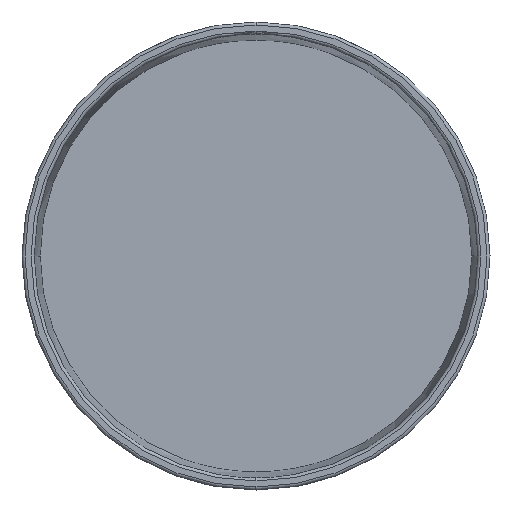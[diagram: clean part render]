
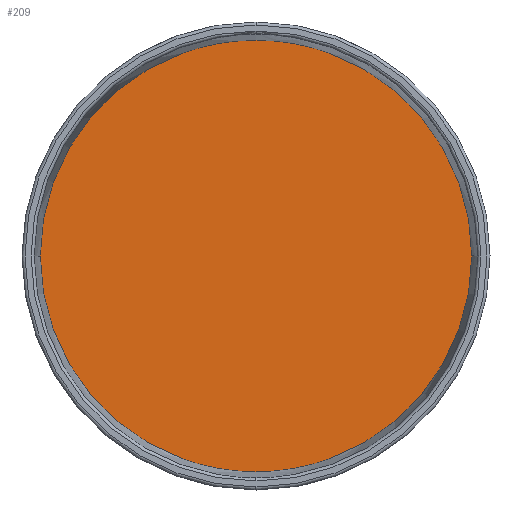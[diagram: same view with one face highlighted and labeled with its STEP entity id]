
A CAD part, front view. The second image highlights one B-rep face of the part: STEP entity #209.
In plain terms, the highlighted planar face has unit normal (0, -1, 0).
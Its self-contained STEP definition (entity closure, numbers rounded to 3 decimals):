
#65 = PLANE ( 'NONE',  #320 ) ;
#74 = DIRECTION ( 'NONE',  ( 0., -1., 0. ) ) ;
#119 = DIRECTION ( 'NONE',  ( 0., 1., 0. ) ) ;
#203 = EDGE_CURVE ( 'NONE', #605, #640, #924, .T. ) ;
#209 = ADVANCED_FACE ( 'NONE', ( #1189 ), #65, .T. ) ;
#320 = AXIS2_PLACEMENT_3D ( 'NONE', #334, #74, #533 ) ;
#334 = CARTESIAN_POINT ( 'NONE',  ( -71.466, 17.171, 0. ) ) ;
#394 = AXIS2_PLACEMENT_3D ( 'NONE', #471, #638, #798 ) ;
#416 = CARTESIAN_POINT ( 'NONE',  ( -71.466, 17.171, 0. ) ) ;
#469 = DIRECTION ( 'NONE',  ( 0., 0., 1. ) ) ;
#471 = CARTESIAN_POINT ( 'NONE',  ( 0., 17.171, 0. ) ) ;
#533 = DIRECTION ( 'NONE',  ( 0., 0., -1. ) ) ;
#594 = EDGE_CURVE ( 'NONE', #640, #605, #878, .T. ) ;
#605 = VERTEX_POINT ( 'NONE', #933 ) ;
#623 = ORIENTED_EDGE ( 'NONE', *, *, #203, .F. ) ;
#638 = DIRECTION ( 'NONE',  ( 0., 1., 0. ) ) ;
#640 = VERTEX_POINT ( 'NONE', #416 ) ;
#798 = DIRECTION ( 'NONE',  ( 0., 0., 1. ) ) ;
#834 = EDGE_LOOP ( 'NONE', ( #850, #623 ) ) ;
#850 = ORIENTED_EDGE ( 'NONE', *, *, #594, .F. ) ;
#878 = CIRCLE ( 'NONE', #935, 71.466 ) ;
#924 = CIRCLE ( 'NONE', #394, 71.466 ) ;
#927 = CARTESIAN_POINT ( 'NONE',  ( 0., 17.171, 0. ) ) ;
#933 = CARTESIAN_POINT ( 'NONE',  ( 71.466, 17.171, 0. ) ) ;
#935 = AXIS2_PLACEMENT_3D ( 'NONE', #927, #119, #469 ) ;
#1189 = FACE_OUTER_BOUND ( 'NONE', #834, .T. ) ;
